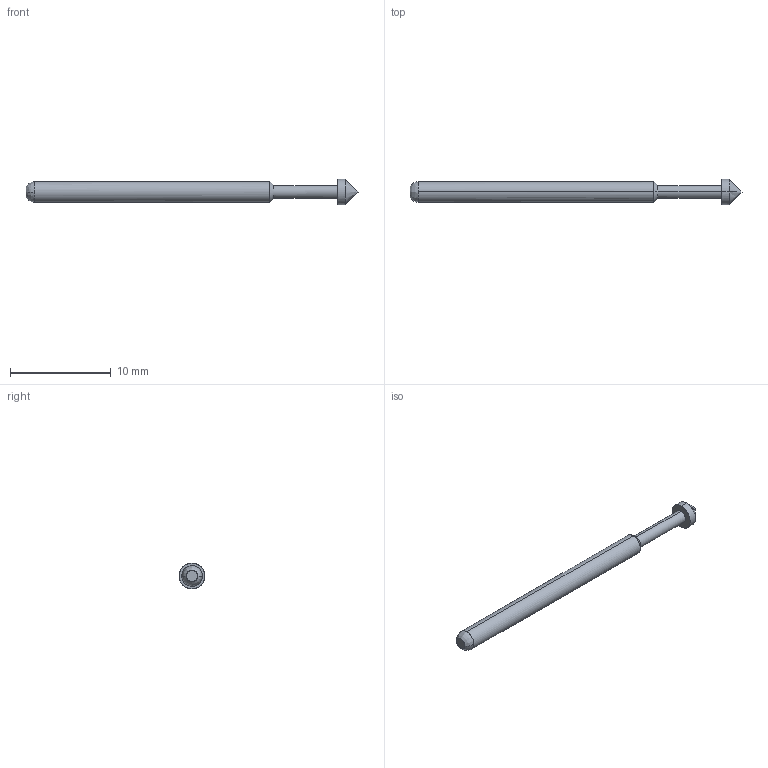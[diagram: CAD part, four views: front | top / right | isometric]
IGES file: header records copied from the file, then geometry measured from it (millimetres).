
Start section: SolidWorks IGES file using analytic representation for surfaces
Global section: file name: \\CODA-VM-SBS\RedirectedFolders\georged\My Documents\CODA CAD FILES\GENERAL PURPOSE TEST PROBES\MEDIUM REACH TEST PROBES\PA5 SERIES\PA5E.IGS; native system: SolidWorks 2024; preprocessor: SolidWorks 2024; author: GeorgeD; date: 240904.145100; units: inch
Bounding box: 33.02 x 2.54 x 2.54 mm (x, y, z)
Surface area: 201.1 mm2 (no closed solid volume)
Topology: 0 solids, 0 shells, 14 faces, 116 edges, 114 vertices
Faces by surface type: bspline 14
